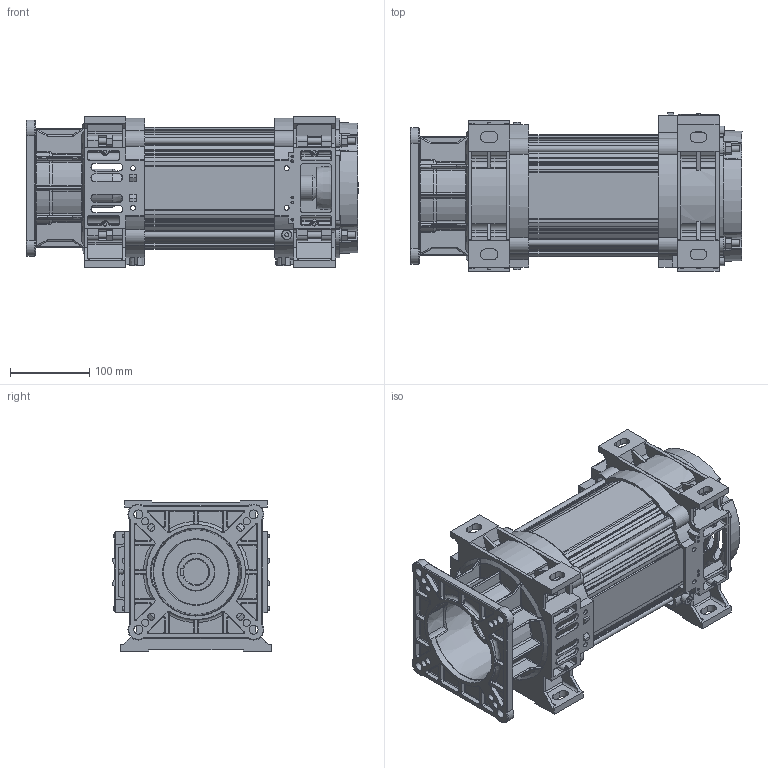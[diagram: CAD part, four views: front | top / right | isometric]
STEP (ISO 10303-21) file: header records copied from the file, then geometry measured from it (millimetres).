
FILE_DESCRIPTION(/* description */ ('Motore Tipo S4X Fl.111.1 F32-H185 NO Volano NO Piedi '),/* implementation_level */ '2;1');
FILE_NAME(/* name */ 'Y:\ServerTecnico\Mockup Motori x Sito Elmo\Mockup Tipo S4X Size 1 FL111 F32-H185 NO Volano.stp',/* time_stamp */ '2016-10-06T11:17:09+02:00',/* author */ ('aparmini'),/* organization */ (''),/* preprocessor_version */ 'ST-DEVELOPER v16.5',/* originating_system */ 'Autodesk Inventor 2017',/* authorisation */ '');
FILE_SCHEMA (('AUTOMOTIVE_DESIGN { 1 0 10303 214 3 1 1 }'));
Products named in the file (8): Mockup Tipo S4X Size 1 FL111 F32-H185 NO Volano; Mockup Statore Size 1 - F32-H185 NO Volano; TGS10; Mockup CA1SD111N; Mockup CP1XD040N; TI08ML325; UNI 5587 - M8; DIN 125-2 - B 8,4
Assembly tree (20 placements, depth 2):
  Mockup Tipo S4X Size 1 FL111 F32-H185 NO Volano
    Mockup Statore Size 1 - F32-H185 NO Volano
    TGS10
    Mockup CA1SD111N
    Mockup CP1XD040N
    UNI 5587 - M8  x8
    TI08ML325  x4
    DIN 125-2 - B 8,4  x4
Bounding box: 419 x 200 x 190 mm (x, y, z)
Volume: 5263204.8 mm3; surface area: 790403 mm2
Topology: 20 solids, 20 shells, 2588 faces, 7036 edges, 4479 vertices
Faces by surface type: plane 1009, cylinder 966, bspline 251, cone 246, torus 100, sphere 16
Full cylindrical faces by diameter (mm): 3.2 x5, 4 x8, 4.917 x2, 5 x4, 6.2 x8, 6.647 x8, 8 x4, 8.4 x4, 9 x8, 10 x8, 11 x4, 12 x4, 16 x4, 17 x1, 21 x1, 32 x2, 38 x1, 48 x1, 82 x1
Entity records: 82949 total; most frequent: CARTESIAN_POINT 21117, DIRECTION 13108, ORIENTED_EDGE 13014, EDGE_CURVE 6495, AXIS2_PLACEMENT_3D 4905, VERTEX_POINT 4230, LINE 3298, VECTOR 3298
